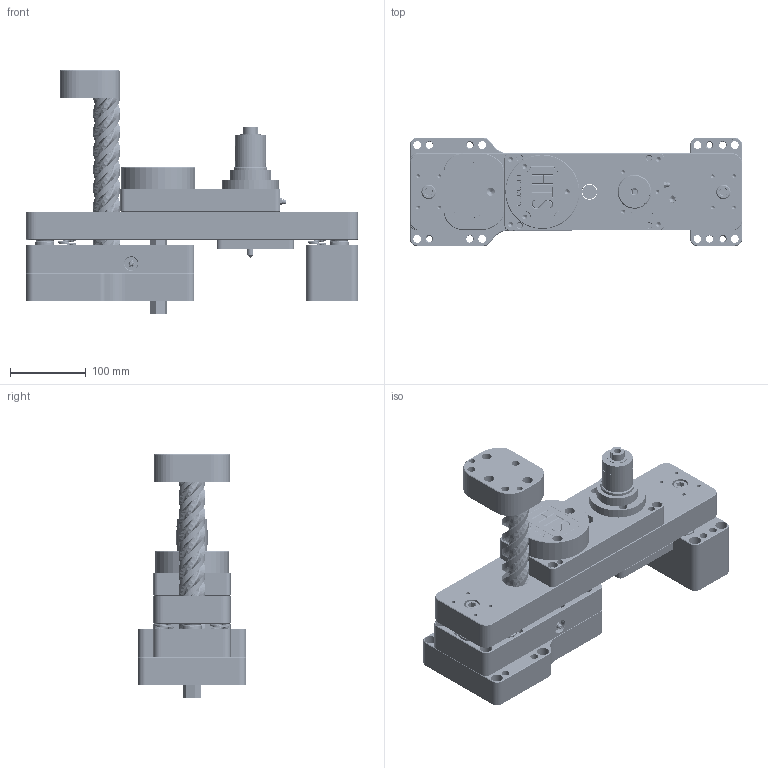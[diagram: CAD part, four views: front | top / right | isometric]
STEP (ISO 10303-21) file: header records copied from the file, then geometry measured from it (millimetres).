
FILE_DESCRIPTION(/* description */ ('Unknown'),/* implementation_level */ '2;1');
FILE_NAME(/* name */ '6100-5instrk',/* time_stamp */ '2018-07-30T07:45:39-04:00',/* author */ ('Unknown'),/* organization */ ('Unknown'),/* preprocessor_version */ 'ST-DEVELOPER v16.7',/* originating_system */ 'DEX',/* authorisation */ $);
FILE_SCHEMA (('AUTOMOTIVE_DESIGN {1 0 10303 214 3 1 1}'));
Products named in the file (28): 6100-000 NEW STD; Tap 5_16-18; 6022-5_16-18; 6020-018; 6025-000; 6119-000; 6107A-000C; 6147-005; 6107B-000C; 6136-M8.0F; 6137A-000-2pstd; 6017-000; 6138-300; BASE-GK95-L_BASE-GK95-L2-E; 6011-005FA; 3_8-16X750_SHCS; 1_2-13X1-1_2 SHCS; 6129-200; RETAININGRING-EXTERNAL-STANDARD; BUSHING-BU-1_0ID-2_0LONG_BUSHIN; 6107C-000-std; 6106B-000-std; 6106A-000-std; 6008-000; 6121-000; 6109-000; 6118A-000; 6012-000
Assembly tree (43 placements, depth 2):
  6100-000 NEW STD
    Tap 5_16-18
    6022-5_16-18
    6020-018
    6025-000
    6119-000
    6107A-000C
    6147-005
    6107B-000C
    6136-M8.0F
    6137A-000-2pstd
    6017-000  x2
    6138-300  x2
    BASE-GK95-L_BASE-GK95-L2-E  x2
    6011-005FA
    3_8-16X750_SHCS  x8
    1_2-13X1-1_2 SHCS  x2
    6129-200  x4
    RETAININGRING-EXTERNAL-STANDARD  x2
    BUSHING-BU-1_0ID-2_0LONG_BUSHIN  x2
    6107C-000-std
    6106B-000-std
    6106A-000-std
    6008-000
    6121-000
    6109-000
    6118A-000
    6012-000
Bounding box: 437.99 x 142.89 x 320.71 mm (x, y, z)
Volume: 5171882.1 mm3; surface area: 876001.1 mm2
Topology: 43 solids, 43 shells, 1480 faces, 4535 edges, 3264 vertices
Faces by surface type: plane 606, cylinder 466, cone 268, bspline 90, torus 46, sphere 4
Full cylindrical faces by diameter (mm): 1.587 x4, 1.981 x4, 4.039 x1, 4.976 x16, 5.004 x1, 5.105 x6, 5.156 x18, 5.954 x2, 6.35 x7, 6.528 x14, 6.805 x3, 7.142 x6, 7.144 x3, 7.541 x2, 7.805 x4, 7.925 x2, 7.938 x36, 8.077 x1, 8.731 x3, 8.733 x8, 8.738 x1, 9.058 x1, 9.525 x4, 9.906 x1, 10.312 x8, 10.317 x22, 10.584 x2, 10.716 x2, 10.719 x2, 11.113 x7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
Entity records: 77869 total; most frequent: CARTESIAN_POINT 46092, DIRECTION 4872, ORIENTED_EDGE 4674, EDGE_CURVE 2337, AXIS2_PLACEMENT_3D 1991, FACE_BOUND 1845, EDGE_LOOP 1814, VERTEX_POINT 1790
